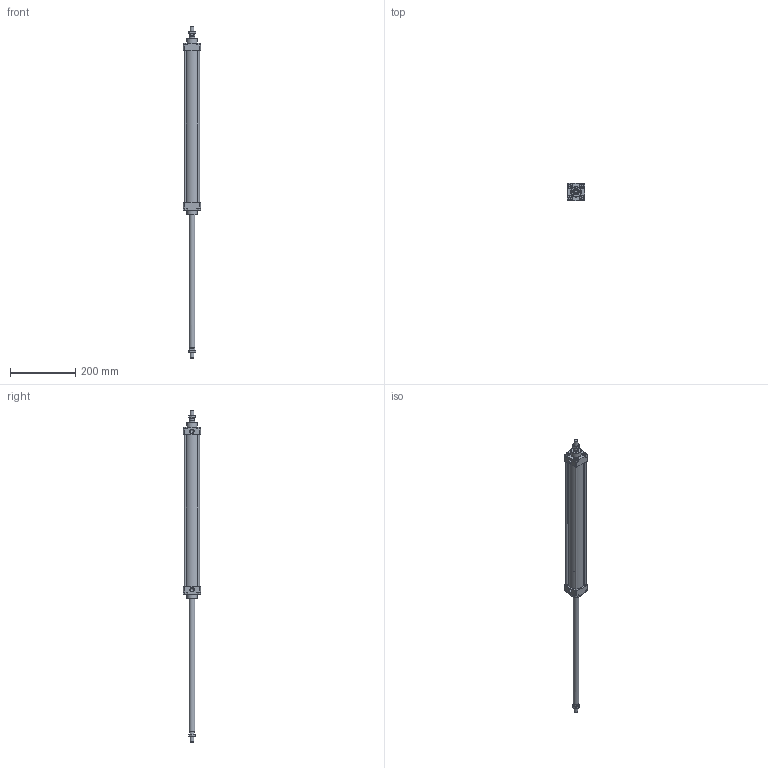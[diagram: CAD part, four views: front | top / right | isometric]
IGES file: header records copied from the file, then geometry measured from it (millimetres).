
Global section: file name: 130#_040_0400_02A; native system: Autodesk Inventor 2014; preprocessor: unknown; author: A. Manieri; date: 20161123.143805; units: millimetre
Bounding box: 52 x 52 x 1014 mm (x, y, z)
Volume: 639987.7 mm3; surface area: 257386.6 mm2
Topology: 10 solids, 10 shells, 187 faces, 467 edges, 314 vertices
Faces by surface type: bspline 187
